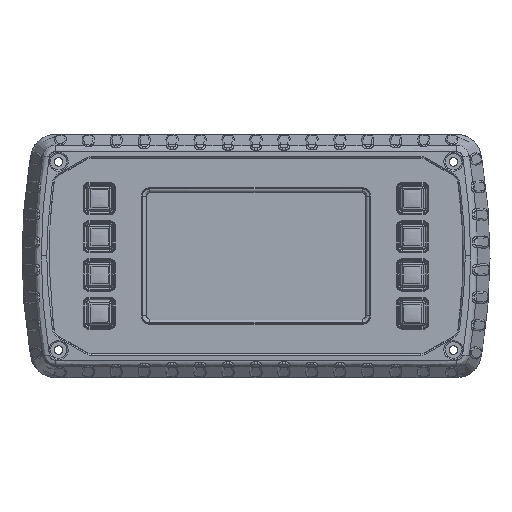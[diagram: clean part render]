
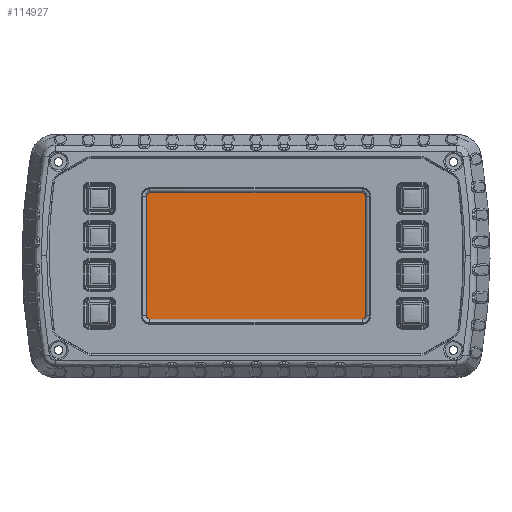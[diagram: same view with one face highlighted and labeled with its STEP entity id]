
A CAD part, top view. The second image highlights one B-rep face of the part: STEP entity #114927.
In plain terms, the highlighted planar face has unit normal (0, 0, -1).
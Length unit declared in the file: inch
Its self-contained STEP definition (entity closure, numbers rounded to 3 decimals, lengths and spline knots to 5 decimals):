
#1352 = CARTESIAN_POINT ( 'NONE',  ( -1.91876, 1.0552, -0.12396 ) ) ;
#4149 = EDGE_CURVE ( 'NONE', #128600, #65156, #152721, .T. ) ;
#8417 = VERTEX_POINT ( 'NONE', #103609 ) ;
#9727 = LINE ( 'NONE', #83218, #77473 ) ;
#11765 = CARTESIAN_POINT ( 'NONE',  ( -1.87538, -1.10472, -0.12396 ) ) ;
#14968 = VERTEX_POINT ( 'NONE', #92929 ) ;
#20950 = EDGE_CURVE ( 'NONE', #154567, #8417, #48814, .T. ) ;
#21910 = CARTESIAN_POINT ( 'NONE',  ( 1.8677, 1.10626, -0.12396 ) ) ;
#22414 = CARTESIAN_POINT ( 'NONE',  ( 1.91876, 1.0475, -0.12396 ) ) ;
#24379 = CARTESIAN_POINT ( 'NONE',  ( -1.91876, -1.0475, -0.12396 ) ) ;
#26690 = CARTESIAN_POINT ( 'NONE',  ( 1.86773, -1.10626, -0.12396 ) ) ;
#27195 = CARTESIAN_POINT ( 'NONE',  ( 1.91722, -1.06288, -0.12396 ) ) ;
#27520 = CARTESIAN_POINT ( 'NONE',  ( -1.86773, 1.10626, -0.12396 ) ) ;
#31812 = DIRECTION ( 'NONE',  ( 1., 0., 0. ) ) ;
#34484 = CARTESIAN_POINT ( 'NONE',  ( 1.86, 1.10626, -0.12396 ) ) ;
#34594 = ORIENTED_EDGE ( 'NONE', *, *, #150980, .F. ) ;
#34882 = CARTESIAN_POINT ( 'NONE',  ( -1.91723, -1.06288, -0.12396 ) ) ;
#37434 = EDGE_LOOP ( 'NONE', ( #141907, #153566, #89539, #34594, #132347, #102801, #132952, #140271 ) ) ;
#37870 = DIRECTION ( 'NONE',  ( 0., 0., -1. ) ) ;
#42007 = FACE_OUTER_BOUND ( 'NONE', #37434, .T. ) ;
#43329 = EDGE_CURVE ( 'NONE', #104235, #65156, #139285, .T. ) ;
#43416 = CARTESIAN_POINT ( 'NONE',  ( 0., -1.10626, -0.12396 ) ) ;
#44412 = CARTESIAN_POINT ( 'NONE',  ( -1.91876, -1.0475, -0.12396 ) ) ;
#45559 = CARTESIAN_POINT ( 'NONE',  ( 1.90699, 1.08361, -0.12396 ) ) ;
#46299 = PLANE ( 'NONE',  #87497 ) ;
#48814 = LINE ( 'NONE', #66712, #152325 ) ;
#51663 = CARTESIAN_POINT ( 'NONE',  ( -1.87538, 1.10473, -0.12396 ) ) ;
#52190 = CARTESIAN_POINT ( 'NONE',  ( -1.89611, 1.09449, -0.12396 ) ) ;
#58003 = B_SPLINE_CURVE_WITH_KNOTS ( 'NONE', 3,
 ( #61228, #1352, #97990, #110099, #62763, #52190, #136836, #51663, #27520, #147836 ),
 .UNSPECIFIED., .F., .F.,
 ( 4, 2, 2, 2, 4 ),
 ( 0., 0.25, 0.5, 0.75, 1. ),
 .UNSPECIFIED. ) ;
#59208 = CARTESIAN_POINT ( 'NONE',  ( 1.89611, 1.09448, -0.12396 ) ) ;
#59978 = CARTESIAN_POINT ( 'NONE',  ( -1.86, -1.10626, -0.12396 ) ) ;
#61075 = CARTESIAN_POINT ( 'NONE',  ( 1.91876, -1.10626, -0.12396 ) ) ;
#61228 = CARTESIAN_POINT ( 'NONE',  ( -1.91876, 1.0475, -0.12396 ) ) ;
#62763 = CARTESIAN_POINT ( 'NONE',  ( -1.90698, 1.08361, -0.12396 ) ) ;
#63034 = EDGE_CURVE ( 'NONE', #14968, #132967, #103945, .T. ) ;
#65156 = VERTEX_POINT ( 'NONE', #44412 ) ;
#66712 = CARTESIAN_POINT ( 'NONE',  ( 0., 1.10626, -0.12396 ) ) ;
#70275 = CARTESIAN_POINT ( 'NONE',  ( 1.91134, 1.07709, -0.12396 ) ) ;
#71171 = CARTESIAN_POINT ( 'NONE',  ( -1.8677, -1.10626, -0.12396 ) ) ;
#73506 = CARTESIAN_POINT ( 'NONE',  ( 1.91135, -1.07709, -0.12396 ) ) ;
#74383 = CARTESIAN_POINT ( 'NONE',  ( 1.86, -1.10626, -0.12396 ) ) ;
#76109 = LINE ( 'NONE', #43416, #149350 ) ;
#77473 = VECTOR ( 'NONE', #131572, 39.37008 ) ;
#78990 = EDGE_CURVE ( 'NONE', #154567, #98499, #118911, .T. ) ;
#82767 = CARTESIAN_POINT ( 'NONE',  ( -1.91134, -1.07709, -0.12396 ) ) ;
#82891 = CARTESIAN_POINT ( 'NONE',  ( 1.91723, 1.06288, -0.12396 ) ) ;
#83218 = CARTESIAN_POINT ( 'NONE',  ( 1.91876, 0., -0.12396 ) ) ;
#85086 = CARTESIAN_POINT ( 'NONE',  ( 1.89611, -1.09449, -0.12396 ) ) ;
#85602 = CARTESIAN_POINT ( 'NONE',  ( 1.90698, -1.08361, -0.12396 ) ) ;
#87497 = AXIS2_PLACEMENT_3D ( 'NONE', #61075, #37870, #141951 ) ;
#89539 = ORIENTED_EDGE ( 'NONE', *, *, #78990, .T. ) ;
#90592 = VECTOR ( 'NONE', #131010, 39.37008 ) ;
#92250 = CARTESIAN_POINT ( 'NONE',  ( 1.91876, 1.0475, -0.12396 ) ) ;
#92929 = CARTESIAN_POINT ( 'NONE',  ( 1.91876, -1.0475, -0.12396 ) ) ;
#97990 = CARTESIAN_POINT ( 'NONE',  ( -1.91722, 1.06288, -0.12396 ) ) ;
#98499 = VERTEX_POINT ( 'NONE', #92250 ) ;
#102801 = ORIENTED_EDGE ( 'NONE', *, *, #130984, .F. ) ;
#103609 = CARTESIAN_POINT ( 'NONE',  ( -1.86, 1.10626, -0.12396 ) ) ;
#103945 = B_SPLINE_CURVE_WITH_KNOTS ( 'NONE', 3,
 ( #146490, #132948, #27195, #73506, #85602, #85086, #109773, #111301, #26690, #121893 ),
 .UNSPECIFIED., .F., .F.,
 ( 4, 2, 2, 2, 4 ),
 ( 0., 0.25, 0.5, 0.75, 1. ),
 .UNSPECIFIED. ) ;
#104235 = VERTEX_POINT ( 'NONE', #59978 ) ;
#108396 = CARTESIAN_POINT ( 'NONE',  ( -1.91876, 0., -0.12396 ) ) ;
#108508 = CARTESIAN_POINT ( 'NONE',  ( -1.88959, -1.09885, -0.12396 ) ) ;
#109773 = CARTESIAN_POINT ( 'NONE',  ( 1.88959, -1.09884, -0.12396 ) ) ;
#110099 = CARTESIAN_POINT ( 'NONE',  ( -1.91135, 1.07709, -0.12396 ) ) ;
#111301 = CARTESIAN_POINT ( 'NONE',  ( 1.87538, -1.10473, -0.12396 ) ) ;
#111790 = CARTESIAN_POINT ( 'NONE',  ( -1.91876, 1.0475, -0.12396 ) ) ;
#112012 = EDGE_CURVE ( 'NONE', #128600, #8417, #58003, .T. ) ;
#114927 = ADVANCED_FACE ( 'NONE', ( #42007 ), #46299, .T. ) ;
#115009 = DIRECTION ( 'NONE',  ( -1., 0., 0. ) ) ;
#118911 = B_SPLINE_CURVE_WITH_KNOTS ( 'NONE', 3,
 ( #34484, #21910, #155389, #154861, #59208, #45559, #70275, #82891, #154349, #22414 ),
 .UNSPECIFIED., .F., .F.,
 ( 4, 2, 2, 2, 4 ),
 ( 0., 0.25, 0.5, 0.75, 1. ),
 .UNSPECIFIED. ) ;
#120081 = CARTESIAN_POINT ( 'NONE',  ( -1.90699, -1.08361, -0.12396 ) ) ;
#121893 = CARTESIAN_POINT ( 'NONE',  ( 1.86, -1.10626, -0.12396 ) ) ;
#128600 = VERTEX_POINT ( 'NONE', #111790 ) ;
#130984 = EDGE_CURVE ( 'NONE', #104235, #132967, #76109, .T. ) ;
#131010 = DIRECTION ( 'NONE',  ( 0., -1., 0. ) ) ;
#131120 = CARTESIAN_POINT ( 'NONE',  ( -1.86, -1.10626, -0.12396 ) ) ;
#131572 = DIRECTION ( 'NONE',  ( 0., 1., 0. ) ) ;
#132347 = ORIENTED_EDGE ( 'NONE', *, *, #63034, .T. ) ;
#132948 = CARTESIAN_POINT ( 'NONE',  ( 1.91876, -1.0552, -0.12396 ) ) ;
#132952 = ORIENTED_EDGE ( 'NONE', *, *, #43329, .T. ) ;
#132967 = VERTEX_POINT ( 'NONE', #74383 ) ;
#133226 = CARTESIAN_POINT ( 'NONE',  ( -1.91876, -1.05523, -0.12396 ) ) ;
#136453 = CARTESIAN_POINT ( 'NONE',  ( 1.86, 1.10626, -0.12396 ) ) ;
#136836 = CARTESIAN_POINT ( 'NONE',  ( -1.88959, 1.09884, -0.12396 ) ) ;
#139285 = B_SPLINE_CURVE_WITH_KNOTS ( 'NONE', 3,
 ( #131120, #71171, #11765, #108508, #143138, #120081, #82767, #34882, #133226, #24379 ),
 .UNSPECIFIED., .F., .F.,
 ( 4, 2, 2, 2, 4 ),
 ( 0., 0.25, 0.5, 0.75, 1. ),
 .UNSPECIFIED. ) ;
#140271 = ORIENTED_EDGE ( 'NONE', *, *, #4149, .F. ) ;
#141907 = ORIENTED_EDGE ( 'NONE', *, *, #112012, .T. ) ;
#141951 = DIRECTION ( 'NONE',  ( -1., 0., 0. ) ) ;
#143138 = CARTESIAN_POINT ( 'NONE',  ( -1.89611, -1.09448, -0.12396 ) ) ;
#146490 = CARTESIAN_POINT ( 'NONE',  ( 1.91876, -1.0475, -0.12396 ) ) ;
#147836 = CARTESIAN_POINT ( 'NONE',  ( -1.86, 1.10626, -0.12396 ) ) ;
#149350 = VECTOR ( 'NONE', #31812, 39.37008 ) ;
#150980 = EDGE_CURVE ( 'NONE', #14968, #98499, #9727, .T. ) ;
#152325 = VECTOR ( 'NONE', #115009, 39.37008 ) ;
#152721 = LINE ( 'NONE', #108396, #90592 ) ;
#153566 = ORIENTED_EDGE ( 'NONE', *, *, #20950, .F. ) ;
#154349 = CARTESIAN_POINT ( 'NONE',  ( 1.91876, 1.05523, -0.12396 ) ) ;
#154567 = VERTEX_POINT ( 'NONE', #136453 ) ;
#154861 = CARTESIAN_POINT ( 'NONE',  ( 1.88959, 1.09885, -0.12396 ) ) ;
#155389 = CARTESIAN_POINT ( 'NONE',  ( 1.87538, 1.10472, -0.12396 ) ) ;
